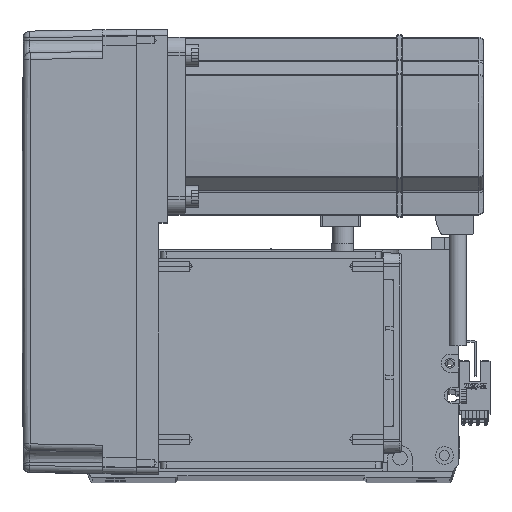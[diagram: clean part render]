
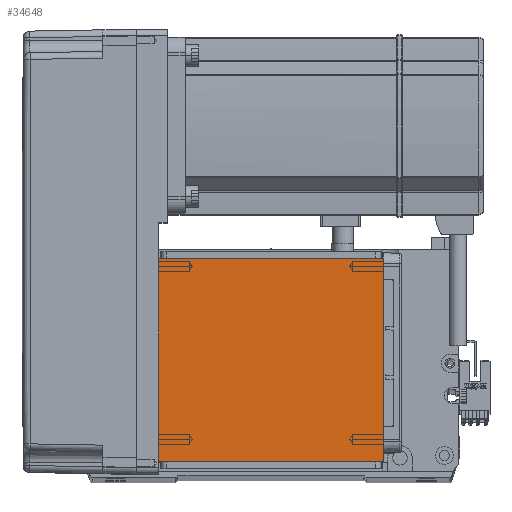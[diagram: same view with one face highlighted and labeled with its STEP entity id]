
A CAD part, top view. The second image highlights one B-rep face of the part: STEP entity #34648.
In plain terms, the highlighted planar face has unit normal (0, 0, 1).
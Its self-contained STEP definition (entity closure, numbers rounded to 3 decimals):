
#207 = LINE ( 'NONE', #772, #914 ) ;
#772 = CARTESIAN_POINT ( 'NONE',  ( -70.004, 20., 115. ) ) ;
#914 = VECTOR ( 'NONE', #27713, 1000. ) ;
#3998 = VECTOR ( 'NONE', #13664, 1000. ) ;
#4658 = EDGE_CURVE ( 'NONE', #41522, #8752, #32276, .T. ) ;
#6510 = EDGE_CURVE ( 'NONE', #32562, #25987, #45495, .T. ) ;
#8752 = VERTEX_POINT ( 'NONE', #10897 ) ;
#9299 = CARTESIAN_POINT ( 'NONE',  ( 0., 0., 115. ) ) ;
#9341 = VECTOR ( 'NONE', #56334, 1000. ) ;
#10897 = CARTESIAN_POINT ( 'NONE',  ( -50.5, 20., 115. ) ) ;
#11487 = CARTESIAN_POINT ( 'NONE',  ( 50.5, 111.5, 115. ) ) ;
#13664 = DIRECTION ( 'NONE',  ( 1., 0., 0. ) ) ;
#22300 = CARTESIAN_POINT ( 'NONE',  ( 50.5, 20., 115. ) ) ;
#23654 = ORIENTED_EDGE ( 'NONE', *, *, #28389, .F. ) ;
#25596 = AXIS2_PLACEMENT_3D ( 'NONE', #9299, #40997, #27513 ) ;
#25922 = CARTESIAN_POINT ( 'NONE',  ( -50.5, 122., 115. ) ) ;
#25987 = VERTEX_POINT ( 'NONE', #11487 ) ;
#27513 = DIRECTION ( 'NONE',  ( 1., 0., 0. ) ) ;
#27713 = DIRECTION ( 'NONE',  ( -1., 0., 0. ) ) ;
#27818 = EDGE_LOOP ( 'NONE', ( #23654, #31936, #39971, #50412 ) ) ;
#28389 = EDGE_CURVE ( 'NONE', #41522, #25987, #56486, .T. ) ;
#31786 = CARTESIAN_POINT ( 'NONE',  ( 50.5, 122., 115. ) ) ;
#31936 = ORIENTED_EDGE ( 'NONE', *, *, #4658, .T. ) ;
#32276 = LINE ( 'NONE', #25922, #55004 ) ;
#32562 = VERTEX_POINT ( 'NONE', #22300 ) ;
#34648 = ADVANCED_FACE ( 'NONE', ( #48613 ), #36482, .T. ) ;
#36482 = PLANE ( 'NONE',  #25596 ) ;
#36528 = EDGE_CURVE ( 'NONE', #32562, #8752, #207, .T. ) ;
#39971 = ORIENTED_EDGE ( 'NONE', *, *, #36528, .F. ) ;
#40474 = CARTESIAN_POINT ( 'NONE',  ( -70.004, 111.5, 115. ) ) ;
#40997 = DIRECTION ( 'NONE',  ( 0., 0., 1. ) ) ;
#41522 = VERTEX_POINT ( 'NONE', #41705 ) ;
#41705 = CARTESIAN_POINT ( 'NONE',  ( -50.5, 111.5, 115. ) ) ;
#45495 = LINE ( 'NONE', #31786, #9341 ) ;
#48613 = FACE_OUTER_BOUND ( 'NONE', #27818, .T. ) ;
#50412 = ORIENTED_EDGE ( 'NONE', *, *, #6510, .T. ) ;
#53125 = DIRECTION ( 'NONE',  ( 0., -1., 0. ) ) ;
#55004 = VECTOR ( 'NONE', #53125, 1000. ) ;
#56334 = DIRECTION ( 'NONE',  ( 0., 1., 0. ) ) ;
#56486 = LINE ( 'NONE', #40474, #3998 ) ;
